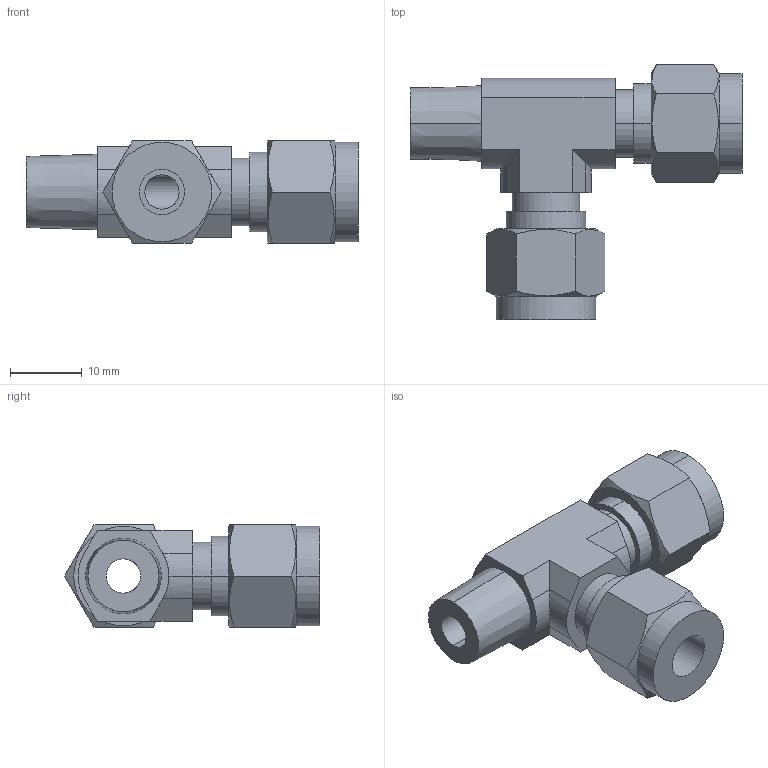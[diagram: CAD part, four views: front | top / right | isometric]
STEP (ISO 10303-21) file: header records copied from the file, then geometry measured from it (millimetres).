
FILE_DESCRIPTION (( 'STEP AP203' ), '1' );
FILE_NAME ('DTK 04-02 SS.STEP', '2009-09-08T10:03:02', ( ' ' ), ( '' ), 'SwSTEP 2.0', 'SolidWorks 2008', '' );
FILE_SCHEMA (( 'CONFIG_CONTROL_DESIGN' ));
Length unit declared in the file: millimetre
Products named in the file (1): DTK 04-02 SS
Bounding box: 46.4 x 35.65 x 14.29 mm (x, y, z)
Volume: 7351 mm3; surface area: 4660.6 mm2
Topology: 1 solids, 1 shells, 73 faces, 181 edges, 118 vertices
Faces by surface type: plane 36, cylinder 27, cone 10
Entity records: 2443 total; most frequent: CARTESIAN_POINT 650, ORIENTED_EDGE 362, DIRECTION 345, EDGE_CURVE 181, AXIS2_PLACEMENT_3D 129, VERTEX_POINT 118, LINE 87, VECTOR 87
